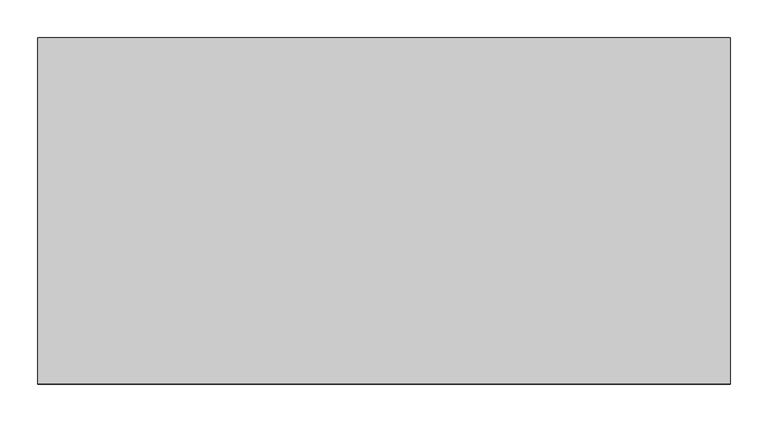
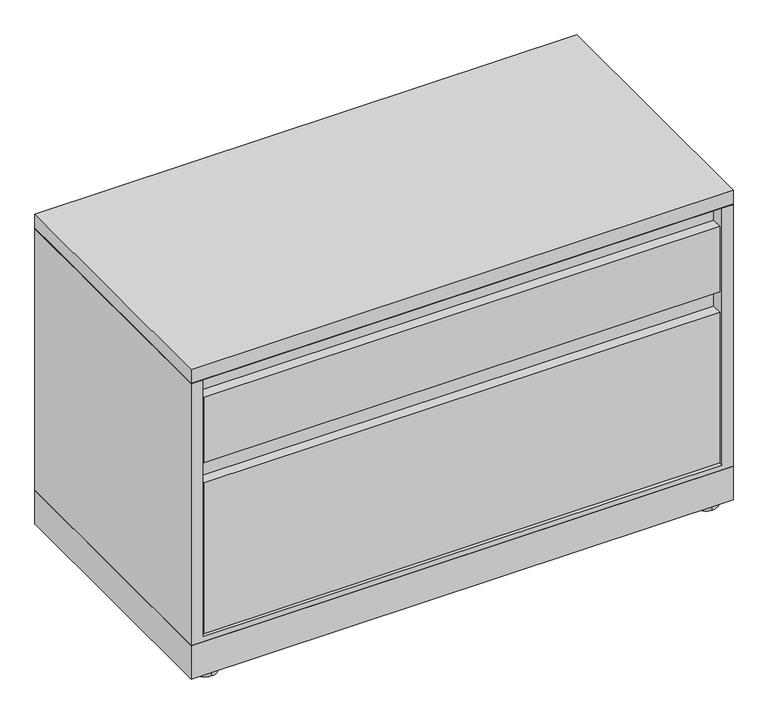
"""IFC4 building model written with IfcOpenShell, lengths in millimetres: furniture geometry, Steelcase - Universal Storage - Lateral File - 1.5 High - Flush Steel : Drawer/Drawer - 18D x 36W."""

from ifc_helpers import new_model, si_unit, point, frame, frame_2d, origin, origin_with_axes, place, context, project, spatial, polyline, circle_curve, trimmed, segment, composite_curve, outline, extrude, faceted_brep, source, transform, mapped, element, save


def furniture_ac29e729(model_context):
    return source(origin(), model_context, "Body", "SolidModel", [
        extrude(outline(polyline([(914.4, 457.2), (914.4, 0.0), (0.0, 0.0), (0.0, 457.2), (914.4, 457.2)])), frame((0.0, 0.0, 6.3500002), z_axis=(0.0, 0.0, 1.0), x_axis=(1.0, 0.0, 0.0)), (0.0, 0.0, 1.0), 59.6899998),
        extrude(outline(composite_curve([segment(trimmed(circle_curve(frame_2d((879.7290058, 434.8633666)), 20.32), [point((879.7290058, 414.5433666))], [point((879.7290058, 455.1833666))], False, "CARTESIAN"), True, "CONTINUOUS"), segment(trimmed(circle_curve(frame_2d((879.7290058, 434.8633666)), 20.32), [point((879.7290058, 455.1833666))], [point((879.7290058, 414.5433666))], False, "CARTESIAN"), True, "CONTINUOUS")], self_intersect=False)), origin_with_axes(), (0.0, 0.0, 1.0), 6.3500002),
        extrude(outline(composite_curve([segment(trimmed(circle_curve(frame_2d((879.7290058, 20.7491455)), 20.32), [point((879.7290058, 0.4291455))], [point((879.7290058, 41.0691455))], False, "CARTESIAN"), True, "CONTINUOUS"), segment(trimmed(circle_curve(frame_2d((879.7290058, 20.7491455)), 20.32), [point((879.7290058, 41.0691455))], [point((879.7290058, 0.4291455))], False, "CARTESIAN"), True, "CONTINUOUS")], self_intersect=False)), origin_with_axes(), (0.0, 0.0, 1.0), 6.3500002),
        extrude(outline(composite_curve([segment(trimmed(circle_curve(frame_2d((34.29, 434.8633666)), 20.32), [point((34.29, 455.1833666))], [point((34.29, 414.5433666))], False, "CARTESIAN"), True, "CONTINUOUS"), segment(trimmed(circle_curve(frame_2d((34.29, 434.8633666)), 20.32), [point((34.29, 414.5433666))], [point((34.29, 455.1833666))], False, "CARTESIAN"), True, "CONTINUOUS")], self_intersect=False)), origin_with_axes(), (0.0, 0.0, 1.0), 6.3500002),
        extrude(outline(composite_curve([segment(trimmed(circle_curve(frame_2d((34.29, 20.7491455)), 20.32), [point((34.29, 41.0691455))], [point((34.29, 0.4291455))], False, "CARTESIAN"), True, "CONTINUOUS"), segment(trimmed(circle_curve(frame_2d((34.29, 20.7491455)), 20.32), [point((34.29, 0.4291455))], [point((34.29, 41.0691455))], False, "CARTESIAN"), True, "CONTINUOUS")], self_intersect=False)), origin_with_axes(), (0.0, 0.0, 1.0), 6.3500002),
        extrude(outline(polyline([(437.7944128, 396.7988176), (437.7944128, 410.7687861), (440.969412, 410.7687861), (440.969412, 371.5257963), (26.822418, 371.5257963), (26.822418, 396.7988176), (437.7944128, 396.7988176)])), frame((22.0472, 0.0, 0.0), z_axis=(1.0, 0.0, 0.0), x_axis=(0.0, 1.0, 0.0)), (0.0, 0.0, 1.0), 870.3056),
        extrude(outline(polyline([(1.45e-05, 534.0350121), (457.2, 534.0350121), (456.4379879, 533.273), (0.7620266, 533.273), (1.45e-05, 534.0350121)])), frame((0.0, 0.0, 0.0), z_axis=(1.0, 0.0, 0.0), x_axis=(0.0, 1.0, 0.0)), (0.0, 0.0, 1.0), 914.4),
        extrude(outline(polyline([(914.4, 457.2), (914.4, 0.0), (0.0, 0.0), (0.0, 457.2), (914.4, 457.2)])), frame((0.0, 0.0, 534.0350121), z_axis=(0.0, 0.0, 1.0), x_axis=(1.0, 0.0, 0.0)), (0.0, 0.0, 1.0), 24.6379729),
        faceted_brep([(914.4, 0.0, 66.04), (914.4, 457.2, 66.04), (914.4, 457.2, 533.273), (914.4, 0.0, 533.273), (0.0, 0.0, 533.273), (0.0, 457.2, 533.273), (0.0, 457.2, 66.04), (0.0, 0.0, 66.04), (895.35, 0.0, 533.273), (895.35, 0.0, 75.1586), (19.05, 0.0, 75.1586), (19.05, 0.0, 533.273), (19.05, 454.0249999, 533.273), (895.35, 454.0249999, 533.273), (19.05, 454.0249999, 75.1586), (895.35, 454.0249999, 75.1586)], [[[0, 1, 2, 3]], [[4, 5, 6, 7]], [[0, 3, 8, 9, 10, 11, 4, 7]], [[2, 1, 6, 5]], [[3, 2, 5, 4, 11, 12, 13, 8]], [[12, 14, 15, 13]], [[14, 12, 11, 10]], [[13, 15, 9, 8]], [[1, 0, 7, 6]], [[10, 9, 15, 14]]]),
        extrude(outline(polyline([(23.6541043, 79.2988025), (1.5178885, 79.2988025), (1.5178885, 348.1577823), (19.3741023, 348.1577823), (19.3741023, 378.7648167), (23.6541043, 378.7648167), (23.6541043, 79.2988025)])), frame((22.0472, 0.0, 0.0), z_axis=(1.0, 0.0, 0.0), x_axis=(0.0, 1.0, 0.0)), (0.0, 0.0, 1.0), 870.3056),
        extrude(outline(polyline([(23.6541043, 384.1241916), (1.5178885, 384.1241916), (1.5178885, 501.1928089), (19.3741023, 501.1928089), (19.3741023, 531.799807), (23.6541043, 531.799807), (23.6541043, 384.1241916)])), frame((22.0472, 0.0, 0.0), z_axis=(1.0, 0.0, 0.0), x_axis=(0.0, 1.0, 0.0)), (0.0, 0.0, 1.0), 870.3056),
    ])


if __name__ == "__main__":
    model = new_model("IFC4")
    model_context = context("Model", 3, world=origin())
    ifc_project = project(units=[si_unit("LENGTHUNIT", "METRE", prefix="MILLI")], contexts=[model_context])
    site = spatial("IfcSite", under=ifc_project)
    building = spatial("IfcBuilding", under=site)
    placement = place(None, origin())
    furniture_shape = furniture_ac29e729(model_context)
    element("IfcFurniture", 1, ObjectType="Steelcase - Universal Storage - Lateral File - 1.5 High - Flush Steel : Drawer/Drawer - 18D x 36W", at=placement, inside=building, context=model_context, shape_type="MappedRepresentation", body=[
        mapped(furniture_shape, transform((0.0, 0.0, 0.0), x_axis=(1.0, 0.0, 0.0), y_axis=(0.0, 1.0, 0.0), z_axis=(0.0, 0.0, 1.0))),
    ])
    save(model, "model.ifc")
